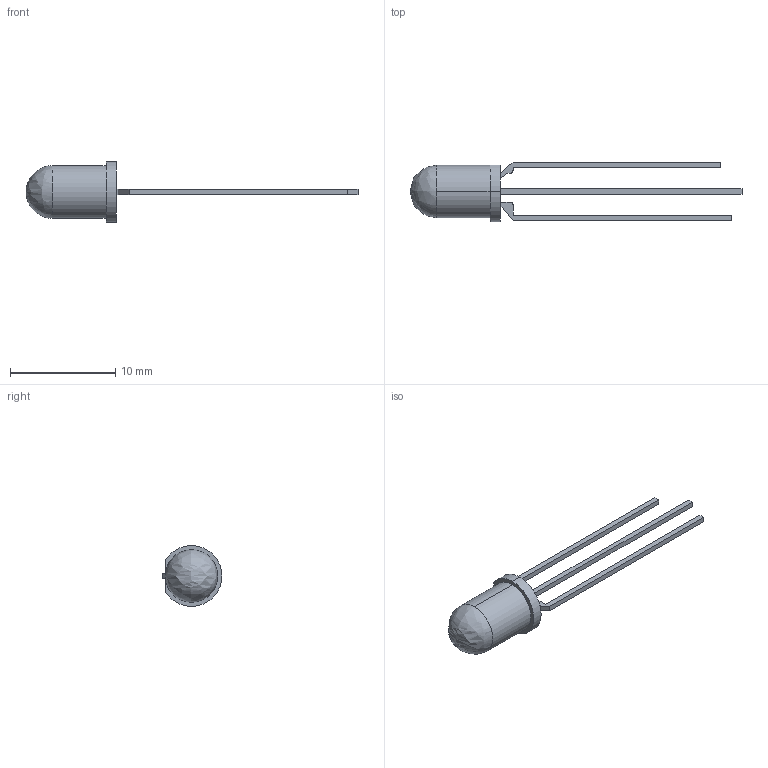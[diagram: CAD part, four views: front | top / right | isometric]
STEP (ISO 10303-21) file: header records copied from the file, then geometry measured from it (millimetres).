
FILE_DESCRIPTION (( 'STEP AP214' ), '1' );
FILE_NAME ('BIVAR__INC_5BC-3-CA-F.step', '2021-03-04T18:25:12', ( '' ), ( '' ), 'SwSTEP 2.0', 'SolidWorks 2021', '' );
FILE_SCHEMA (( 'AUTOMOTIVE_DESIGN' ));
Length unit declared in the file: inch
Products named in the file (1): BIVAR__INC_5BC-3-CA-F
Bounding box: 31.61 x 5.69 x 5.79 mm (x, y, z)
Volume: 176.2 mm3; surface area: 306.3 mm2
Topology: 1 solids, 1 shells, 35 faces, 91 edges, 59 vertices
Faces by surface type: plane 26, cylinder 8, bspline 1
Entity records: 1103 total; most frequent: CARTESIAN_POINT 199, ORIENTED_EDGE 178, DIRECTION 176, EDGE_CURVE 89, LINE 72, VECTOR 72, VERTEX_POINT 59, AXIS2_PLACEMENT_3D 52
